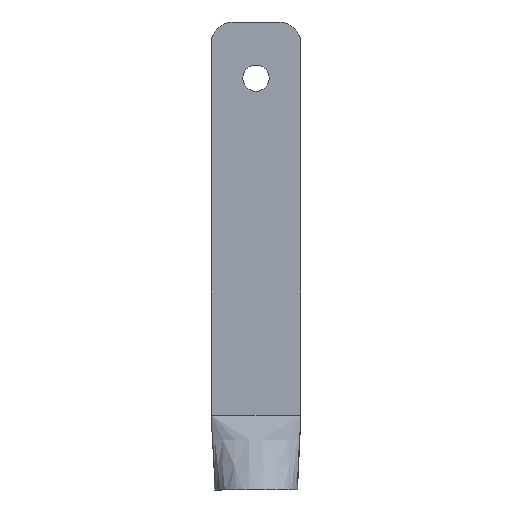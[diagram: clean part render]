
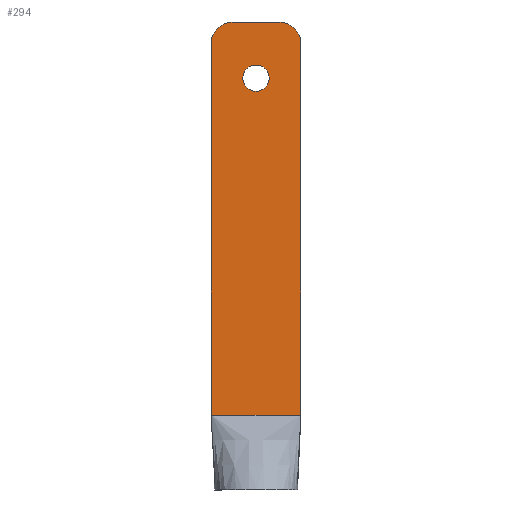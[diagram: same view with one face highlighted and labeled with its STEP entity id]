
A CAD part, front view. The second image highlights one B-rep face of the part: STEP entity #294.
In plain terms, the highlighted planar face has unit normal (0, -1, 0).
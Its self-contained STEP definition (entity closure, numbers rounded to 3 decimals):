
#27=FACE_BOUND('',#57,.T.);
#31=PLANE('',#328);
#39=FACE_OUTER_BOUND('',#56,.T.);
#56=EDGE_LOOP('',(#212,#213,#214,#215,#216,#217,#218,#219,#220,#221));
#57=EDGE_LOOP('',(#222));
#76=LINE('',#447,#101);
#79=LINE('',#455,#104);
#80=LINE('',#457,#105);
#81=LINE('',#459,#106);
#82=LINE('',#461,#107);
#83=LINE('',#463,#108);
#101=VECTOR('',#365,10.);
#104=VECTOR('',#372,10.);
#105=VECTOR('',#373,10.);
#106=VECTOR('',#374,10.);
#107=VECTOR('',#375,10.);
#108=VECTOR('',#376,10.);
#124=CIRCLE('',#325,6.);
#126=CIRCLE('',#329,0.01);
#127=CIRCLE('',#330,0.01);
#128=CIRCLE('',#331,6.);
#129=CIRCLE('',#332,3.5);
#136=VERTEX_POINT('',#437);
#137=VERTEX_POINT('',#438);
#140=VERTEX_POINT('',#446);
#142=VERTEX_POINT('',#452);
#143=VERTEX_POINT('',#454);
#144=VERTEX_POINT('',#456);
#145=VERTEX_POINT('',#458);
#146=VERTEX_POINT('',#460);
#147=VERTEX_POINT('',#462);
#148=VERTEX_POINT('',#464);
#149=VERTEX_POINT('',#467);
#163=EDGE_CURVE('',#136,#137,#124,.T.);
#167=EDGE_CURVE('',#137,#140,#76,.T.);
#170=EDGE_CURVE('',#142,#136,#126,.T.);
#171=EDGE_CURVE('',#143,#142,#79,.T.);
#172=EDGE_CURVE('',#143,#144,#80,.T.);
#173=EDGE_CURVE('',#144,#145,#81,.T.);
#174=EDGE_CURVE('',#145,#146,#82,.T.);
#175=EDGE_CURVE('',#146,#147,#83,.T.);
#176=EDGE_CURVE('',#148,#147,#127,.T.);
#177=EDGE_CURVE('',#140,#148,#128,.T.);
#178=EDGE_CURVE('',#149,#149,#129,.T.);
#212=ORIENTED_EDGE('',*,*,#163,.F.);
#213=ORIENTED_EDGE('',*,*,#170,.F.);
#214=ORIENTED_EDGE('',*,*,#171,.F.);
#215=ORIENTED_EDGE('',*,*,#172,.T.);
#216=ORIENTED_EDGE('',*,*,#173,.T.);
#217=ORIENTED_EDGE('',*,*,#174,.T.);
#218=ORIENTED_EDGE('',*,*,#175,.T.);
#219=ORIENTED_EDGE('',*,*,#176,.F.);
#220=ORIENTED_EDGE('',*,*,#177,.F.);
#221=ORIENTED_EDGE('',*,*,#167,.F.);
#222=ORIENTED_EDGE('',*,*,#178,.T.);
#294=ADVANCED_FACE('',(#39,#27),#31,.T.);
#325=AXIS2_PLACEMENT_3D('',#439,#357,#358);
#328=AXIS2_PLACEMENT_3D('',#451,#368,#369);
#329=AXIS2_PLACEMENT_3D('',#453,#370,#371);
#330=AXIS2_PLACEMENT_3D('',#465,#377,#378);
#331=AXIS2_PLACEMENT_3D('',#466,#379,#380);
#332=AXIS2_PLACEMENT_3D('',#468,#381,#382);
#357=DIRECTION('center_axis',(0.,1.,0.));
#358=DIRECTION('ref_axis',(-0.986,0.,0.167));
#365=DIRECTION('',(1.,0.,0.));
#368=DIRECTION('center_axis',(0.,-1.,0.));
#369=DIRECTION('ref_axis',(1.,0.,0.));
#370=DIRECTION('center_axis',(0.,1.,0.));
#371=DIRECTION('ref_axis',(-0.707,0.,0.707));
#372=DIRECTION('',(0.,0.,1.));
#373=DIRECTION('',(1.,0.,0.));
#374=DIRECTION('',(1.,0.,0.));
#375=DIRECTION('',(1.,0.,0.));
#376=DIRECTION('',(0.,0.,1.));
#377=DIRECTION('center_axis',(0.,1.,0.));
#378=DIRECTION('ref_axis',(0.707,0.,0.707));
#379=DIRECTION('center_axis',(0.,1.,0.));
#380=DIRECTION('ref_axis',(0.986,0.,0.167));
#381=DIRECTION('center_axis',(0.,1.,0.));
#382=DIRECTION('ref_axis',(1.,0.,0.));
#437=CARTESIAN_POINT('',(-11.99,-2.5,139.6));
#438=CARTESIAN_POINT('',(-6.074,-2.5,144.6));
#439=CARTESIAN_POINT('Origin',(-6.074,-2.5,138.6));
#446=CARTESIAN_POINT('',(6.074,-2.5,144.6));
#447=CARTESIAN_POINT('',(-12.,-2.5,144.6));
#451=CARTESIAN_POINT('Origin',(-12.,-2.5,39.6));
#452=CARTESIAN_POINT('',(-12.,-2.5,139.59));
#453=CARTESIAN_POINT('Origin',(-11.99,-2.5,139.59));
#454=CARTESIAN_POINT('',(-12.,-2.5,39.6));
#455=CARTESIAN_POINT('',(-12.,-2.5,39.6));
#456=CARTESIAN_POINT('',(-11.809,-2.5,39.6));
#457=CARTESIAN_POINT('',(-12.,-2.5,39.6));
#458=CARTESIAN_POINT('',(11.809,-2.5,39.6));
#459=CARTESIAN_POINT('',(-12.,-2.5,39.6));
#460=CARTESIAN_POINT('',(12.,-2.5,39.6));
#461=CARTESIAN_POINT('',(-12.,-2.5,39.6));
#462=CARTESIAN_POINT('',(12.,-2.5,139.59));
#463=CARTESIAN_POINT('',(12.,-2.5,39.6));
#464=CARTESIAN_POINT('',(11.99,-2.5,139.6));
#465=CARTESIAN_POINT('Origin',(11.99,-2.5,139.59));
#466=CARTESIAN_POINT('Origin',(6.074,-2.5,138.6));
#467=CARTESIAN_POINT('',(-3.5,-2.5,129.6));
#468=CARTESIAN_POINT('Origin',(0.,-2.5,129.6));
